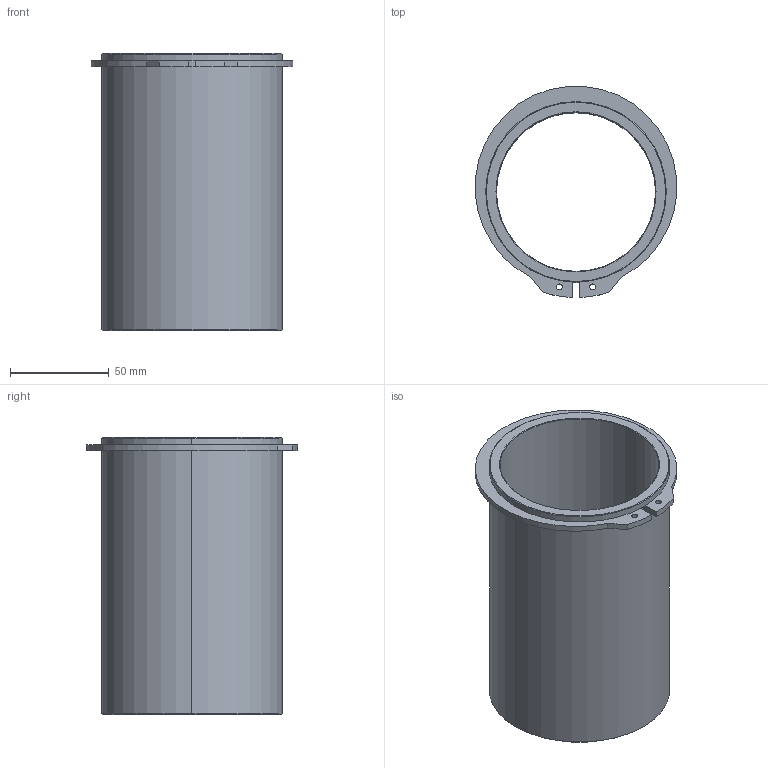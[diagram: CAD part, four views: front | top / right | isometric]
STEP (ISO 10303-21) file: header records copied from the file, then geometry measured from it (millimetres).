
FILE_DESCRIPTION((''),'2;1');
FILE_NAME('C13_080_140.stp','2008-12-17T15:04:04',(''),(''),'Mechanical Desktop 2009','Mechanical Desktop 2009',', , ');
FILE_SCHEMA(('CONFIG_CONTROL_DESIGN'));
Length unit declared in the file: millimetre
Products named in the file (2): Product; blmdl1
Assembly tree (1 placements, depth 2):
  Product
    blmdl1
Bounding box: 101.73 x 106.65 x 140 mm (x, y, z)
Volume: 210885.2 mm3; surface area: 85273.3 mm2
Topology: 2 solids, 2 shells, 34 faces, 76 edges, 48 vertices
Faces by surface type: cylinder 16, plane 10, cone 8
Entity records: 1075 total; most frequent: DIRECTION 188, CARTESIAN_POINT 160, ORIENTED_EDGE 152, AXIS2_PLACEMENT_3D 76, EDGE_CURVE 76, VERTEX_POINT 48, EDGE_LOOP 42, CIRCLE 40
